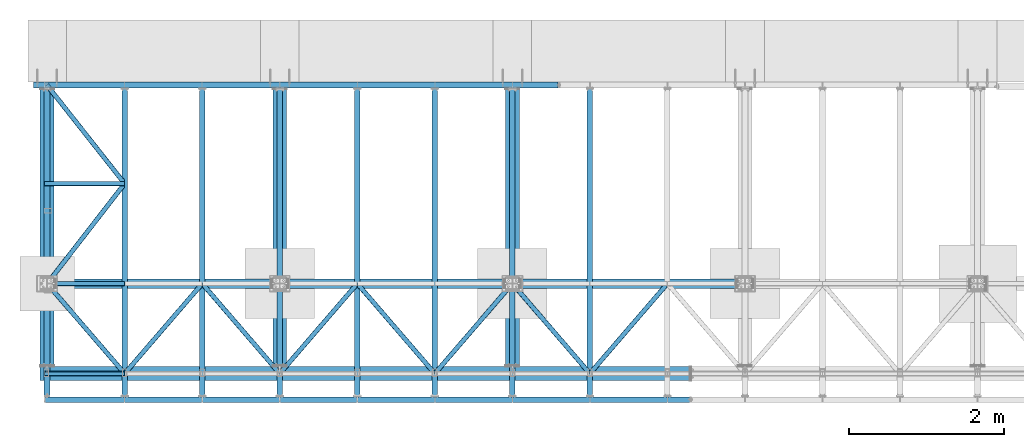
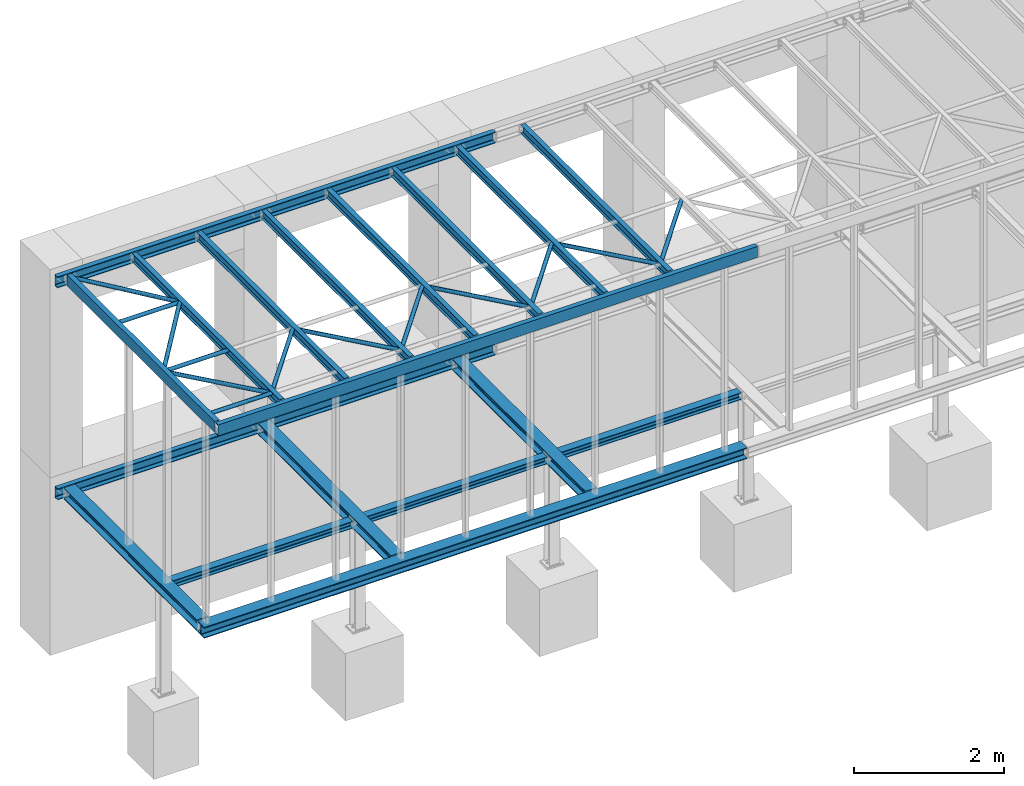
# One storey, part 3 of 22: 31 beams, 31 elements without a shape of their own.
"""IFC2X3 building model written with IfcOpenShell, lengths in millimetres."""

from ifc_helpers import new_model, si_unit, frame, origin_with_axes, origin_2d_with_axis, place, context, subcontext, project, spatial, hollow_circle, i_section, u_section, extrude, boolean, halfspace, material, type_object, element, aggregate, save


model = new_model("IFC2X3")

# Units and contexts
model_context = context("Model", 3, precision=1e-05, world=origin_with_axes())
body_context = subcontext(model_context, "Body", "Model", "MODEL_VIEW")
ifc_project = project(units=[si_unit("LENGTHUNIT", "METRE", prefix="MILLI"), si_unit("AREAUNIT", "SQUARE_METRE"), si_unit("VOLUMEUNIT", "CUBIC_METRE"), si_unit("MASSUNIT", "GRAM", prefix="KILO"), si_unit("TIMEUNIT", "SECOND"), si_unit("PLANEANGLEUNIT", "RADIAN"), si_unit("SOLIDANGLEUNIT", "STERADIAN"), si_unit("THERMODYNAMICTEMPERATUREUNIT", "DEGREE_CELSIUS"), si_unit("LUMINOUSINTENSITYUNIT", "LUMEN")], contexts=[model_context])

# Site, building, storey
site_placement = place(None, origin_with_axes())
site = spatial("IfcSite", under=ifc_project, at=site_placement, Name="Undefined", CompositionType="ELEMENT")
building_placement = place(site_placement, origin_with_axes())
building = spatial("IfcBuilding", under=site, at=building_placement, Name="Undefined", CompositionType="ELEMENT")
storey_placement = place(building_placement, origin_with_axes())
storey = spatial("IfcBuildingStorey", under=building, at=storey_placement, Name="Undefined", CompositionType="ELEMENT", Elevation=0.0)

# Assembly, beam
assembly_1_placement = place(storey_placement, origin_with_axes())
assembly_1 = element("IfcElementAssembly", 1, at=assembly_1_placement, inside=storey, Name="Steel Assembly", AssemblyPlace="NOTDEFINED", PredefinedType="RIGID_FRAME")
ifc_material = material(Name="STEEL/S235JR")
beam_type_1 = type_object("IfcBeamType", Name="HEB180", PredefinedType="NOTDEFINED")
beam_1_placement = place(assembly_1_placement, frame((6050.0, 3767.0, -250.0), z_axis=(0.0, 0.0, 1.0), x_axis=(0.0, -1.0, 0.0)))
beam_1 = element("IfcBeam", 2, at=beam_1_placement, type_object=beam_type_1, material=ifc_material, Name="NOSNÍK", ObjectType="HEB180", context=body_context, shape_type="SweptSolid", body=[
    extrude(i_section(OverallWidth=180.0, OverallDepth=180.0, WebThickness=8.5, FlangeThickness=14.0, FilletRadius=15.0, at=origin_2d_with_axis()), frame((3557.0, 0.0, 0.0), z_axis=(-1.0, 0.0, 0.0), x_axis=(0.0, -1.0, 0.0)), (0.0, 0.0, 1.0), 3557.0),
])
aggregate(assembly_1, [beam_1])

assembly_2_placement = place(storey_placement, origin_with_axes())
assembly_2 = element("IfcElementAssembly", 3, at=assembly_2_placement, inside=storey, Name="Steel Assembly", AssemblyPlace="NOTDEFINED", PredefinedType="RIGID_FRAME")
beam_2_placement = place(assembly_2_placement, frame((3050.0, 3767.0, -250.0), z_axis=(0.0, 0.0, 1.0), x_axis=(0.0, -1.0, 0.0)))
beam_2 = element("IfcBeam", 4, at=beam_2_placement, type_object=beam_type_1, material=ifc_material, Name="NOSNÍK", ObjectType="HEB180", context=body_context, shape_type="SweptSolid", body=[
    extrude(i_section(OverallWidth=180.0, OverallDepth=180.0, WebThickness=8.5, FlangeThickness=14.0, FilletRadius=15.0, at=origin_2d_with_axis()), frame((3557.0, 0.0, 0.0), z_axis=(-1.0, 0.0, 0.0), x_axis=(0.0, -1.0, 0.0)), (0.0, 0.0, 1.0), 3557.0),
])
aggregate(assembly_2, [beam_2])

assembly_3_placement = place(storey_placement, origin_with_axes())
assembly_3 = element("IfcElementAssembly", 5, at=assembly_3_placement, inside=storey, Name="Steel Assembly", AssemblyPlace="NOTDEFINED", PredefinedType="RIGID_FRAME")
beam_3_placement = place(assembly_3_placement, frame((50.0, 210.0, -250.0), z_axis=(0.0, 0.0, 1.0), x_axis=(0.0, 1.0, 0.0)))
beam_3 = element("IfcBeam", 6, at=beam_3_placement, type_object=beam_type_1, material=ifc_material, Name="NOSNÍK", ObjectType="HEB180", context=body_context, shape_type="SweptSolid", body=[
    extrude(i_section(OverallWidth=180.0, OverallDepth=180.0, WebThickness=8.5, FlangeThickness=14.0, FilletRadius=15.0, at=origin_2d_with_axis()), frame((3557.0, 0.0, 0.0), z_axis=(-1.0, 0.0, 0.0), x_axis=(0.0, -1.0, 0.0)), (0.0, 0.0, 1.0), 3557.0),
])
aggregate(assembly_3, [beam_3])

assembly_4_placement = place(storey_placement, origin_with_axes())
assembly_4 = element("IfcElementAssembly", 7, at=assembly_4_placement, inside=storey, Name="Steel Assembly", AssemblyPlace="NOTDEFINED", PredefinedType="RIGID_FRAME")
beam_4_placement = place(assembly_4_placement, frame((-40.0, 100.0, -250.0), z_axis=(0.0, 0.0, -1.0), x_axis=(1.0, 0.0, 0.0)))
beam_4 = element("IfcBeam", 8, at=beam_4_placement, type_object=beam_type_1, material=ifc_material, Name="NOSNÍK", ObjectType="HEB180", context=body_context, shape_type="SweptSolid", body=[
    extrude(i_section(OverallWidth=180.0, OverallDepth=180.0, WebThickness=8.5, FlangeThickness=14.0, FilletRadius=15.0, at=origin_2d_with_axis()), frame((8380.0, 0.0, 0.0), z_axis=(-1.0, 0.0, 0.0), x_axis=(0.0, -1.0, 0.0)), (0.0, 0.0, 1.0), 8380.0),
])
aggregate(assembly_4, [beam_4])

assembly_5_placement = place(storey_placement, origin_with_axes())
assembly_5 = element("IfcElementAssembly", 9, at=assembly_5_placement, inside=storey, Name="Steel Assembly", AssemblyPlace="NOTDEFINED", PredefinedType="RIGID_FRAME")
beam_type_2 = type_object("IfcBeamType", Name="UPE180", PredefinedType="NOTDEFINED")
beam_5_placement = place(assembly_5_placement, frame((8340.0, -237.5, 3210.0), z_axis=(0.0, 0.0, 1.0), x_axis=(-1.0, 0.0, 0.0)))
beam_5 = element("IfcBeam", 10, at=beam_5_placement, type_object=beam_type_2, material=ifc_material, Name="NOSNÍK", ObjectType="UPE180", context=body_context, shape_type="SweptSolid", body=[
    extrude(u_section(Depth=180.0, FlangeWidth=75.0, WebThickness=5.5, FlangeThickness=10.5, FilletRadius=12.0, at=origin_2d_with_axis()), frame((8330.0, 0.0, 0.0), z_axis=(-1.0, 0.0, 0.0), x_axis=(0.0, -1.0, 0.0)), (0.0, 0.0, 1.0), 8330.0),
])
aggregate(assembly_5, [beam_5])

assembly_6_placement = place(storey_placement, origin_with_axes())
assembly_6 = element("IfcElementAssembly", 11, at=assembly_6_placement, inside=storey, Name="Steel Assembly", AssemblyPlace="NOTDEFINED", PredefinedType="RIGID_FRAME")
beam_6_placement = place(assembly_6_placement, frame((6640.0, 3822.5, 3210.0), z_axis=(0.0, 0.0, -1.0), x_axis=(-1.0, 0.0, 0.0)))
beam_6 = element("IfcBeam", 12, at=beam_6_placement, type_object=beam_type_2, material=ifc_material, Name="NOSNÍK", ObjectType="UPE180", context=body_context, shape_type="SweptSolid", body=[
    extrude(u_section(Depth=180.0, FlangeWidth=75.0, WebThickness=5.5, FlangeThickness=10.5, FilletRadius=12.0, at=origin_2d_with_axis()), frame((6765.0, 0.0, 0.0), z_axis=(-1.0, 0.0, 0.0), x_axis=(0.0, -1.0, 0.0)), (0.0, 0.0, 1.0), 6765.0),
])
aggregate(assembly_6, [beam_6])

assembly_7_placement = place(storey_placement, origin_with_axes())
assembly_7 = element("IfcElementAssembly", 13, at=assembly_7_placement, inside=storey, Name="Steel Assembly", AssemblyPlace="NOTDEFINED", PredefinedType="RIGID_FRAME")
beam_7_placement = place(assembly_7_placement, frame((6640.0, 3822.5, -250.0), z_axis=(0.0, 0.0, -1.0), x_axis=(-1.0, 0.0, 0.0)))
beam_7 = element("IfcBeam", 14, at=beam_7_placement, type_object=beam_type_2, material=ifc_material, Name="NOSNÍK", ObjectType="UPE180", context=body_context, shape_type="SweptSolid", body=[
    extrude(u_section(Depth=180.0, FlangeWidth=75.0, WebThickness=5.5, FlangeThickness=10.5, FilletRadius=12.0, at=origin_2d_with_axis()), frame((6765.0, 0.0, 0.0), z_axis=(-1.0, 0.0, 0.0), x_axis=(0.0, -1.0, 0.0)), (0.0, 0.0, 1.0), 6765.0),
])
aggregate(assembly_7, [beam_7])

assembly_8_placement = place(storey_placement, origin_with_axes())
assembly_8 = element("IfcElementAssembly", 15, at=assembly_8_placement, inside=storey, Name="Steel Assembly", AssemblyPlace="NOTDEFINED", PredefinedType="RIGID_FRAME")
beam_8_placement = place(assembly_8_placement, frame((47.5, -179.999999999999, 3210.0), z_axis=(0.0, 0.0, 1.0), x_axis=(0.0, 1.0, 0.0)))
beam_8 = element("IfcBeam", 16, at=beam_8_placement, type_object=beam_type_2, material=ifc_material, Name="NOSNÍK", ObjectType="UPE180", context=body_context, shape_type="SweptSolid", body=[
    extrude(u_section(Depth=180.0, FlangeWidth=75.0, WebThickness=5.5, FlangeThickness=10.5, FilletRadius=12.0, at=origin_2d_with_axis()), frame((3945.0, 0.0, 0.0), z_axis=(-1.0, 0.0, 0.0), x_axis=(0.0, -1.0, 0.0)), (0.0, 0.0, 1.0), 3945.0),
])
aggregate(assembly_8, [beam_8])

assembly_9_placement = place(storey_placement, origin_with_axes())
assembly_9 = element("IfcElementAssembly", 17, at=assembly_9_placement, inside=storey, Name="Steel Assembly", AssemblyPlace="NOTDEFINED", PredefinedType="RIGID_FRAME")
beam_type_3 = type_object("IfcBeamType", Name="HEA120", PredefinedType="NOTDEFINED")
beam_9_placement = place(assembly_9_placement, frame((6160.0, 1260.0, -250.0), z_axis=(0.0, 0.0, -1.0), x_axis=(1.0, 0.0, 0.0)))
beam_9 = element("IfcBeam", 18, at=beam_9_placement, type_object=beam_type_3, material=ifc_material, Name="NOSNÍK", ObjectType="HEA120", context=body_context, shape_type="SweptSolid", body=[
    extrude(i_section(OverallWidth=120.0, OverallDepth=114.0, WebThickness=5.0, FlangeThickness=8.0, FilletRadius=12.0, at=origin_2d_with_axis()), frame((2780.0, 0.0, 0.0), z_axis=(-1.0, 0.0, 0.0), x_axis=(0.0, -1.0, 0.0)), (0.0, 0.0, 1.0), 2780.0),
])
aggregate(assembly_9, [beam_9])

assembly_10_placement = place(storey_placement, origin_with_axes())
assembly_10 = element("IfcElementAssembly", 19, at=assembly_10_placement, inside=storey, Name="Steel Assembly", AssemblyPlace="NOTDEFINED", PredefinedType="RIGID_FRAME")
beam_10_placement = place(assembly_10_placement, frame((3160.0, 1260.0, -250.0), z_axis=(0.0, 0.0, -1.0), x_axis=(1.0, 0.0, 0.0)))
beam_10 = element("IfcBeam", 20, at=beam_10_placement, type_object=beam_type_3, material=ifc_material, Name="NOSNÍK", ObjectType="HEA120", context=body_context, shape_type="SweptSolid", body=[
    extrude(i_section(OverallWidth=120.0, OverallDepth=114.0, WebThickness=5.0, FlangeThickness=8.0, FilletRadius=12.0, at=origin_2d_with_axis()), frame((2780.0, 0.0, 0.0), z_axis=(-1.0, 0.0, 0.0), x_axis=(0.0, -1.0, 0.0)), (0.0, 0.0, 1.0), 2780.0),
])
aggregate(assembly_10, [beam_10])

assembly_11_placement = place(storey_placement, origin_with_axes())
assembly_11 = element("IfcElementAssembly", 21, at=assembly_11_placement, inside=storey, Name="Steel Assembly", AssemblyPlace="NOTDEFINED", PredefinedType="RIGID_FRAME")
beam_11_placement = place(assembly_11_placement, frame((160.0, 1260.0, -250.0), z_axis=(0.0, 0.0, -1.0), x_axis=(1.0, 0.0, 0.0)))
beam_11 = element("IfcBeam", 22, at=beam_11_placement, type_object=beam_type_3, material=ifc_material, Name="NOSNÍK", ObjectType="HEA120", context=body_context, shape_type="SweptSolid", body=[
    extrude(i_section(OverallWidth=120.0, OverallDepth=114.0, WebThickness=5.0, FlangeThickness=8.0, FilletRadius=12.0, at=origin_2d_with_axis()), frame((2780.0, 0.0, 0.0), z_axis=(-1.0, 0.0, 0.0), x_axis=(0.0, -1.0, 0.0)), (0.0, 0.0, 1.0), 2780.0),
])
aggregate(assembly_11, [beam_11])

assembly_12_placement = place(storey_placement, origin_with_axes())
assembly_12 = element("IfcElementAssembly", 23, at=assembly_12_placement, inside=storey, Name="Steel Assembly", AssemblyPlace="NOTDEFINED", PredefinedType="RIGID_FRAME")
beam_type_4 = type_object("IfcBeamType", Name="CHS60.3*5", PredefinedType="NOTDEFINED")
beam_12_placement = place(assembly_12_placement, frame((15.5, 2550.0, 3230.0), z_axis=(0.0, 0.0, -1.0), x_axis=(1.0, 0.0, 0.0)))
beam_12 = element("IfcBeam", 24, at=beam_12_placement, type_object=beam_type_4, material=ifc_material, Name="NOSNÍK", ObjectType="CHS60.3*5", context=body_context, shape_type="SweptSolid", body=[
    extrude(hollow_circle(Radius=30.15, WallThickness=5.0, at=origin_2d_with_axis()), frame((1034.5, 0.0, 0.0), z_axis=(-1.0, 0.0, 0.0), x_axis=(0.0, -1.0, 0.0)), (0.0, 0.0, 1.0), 1034.5),
])
aggregate(assembly_12, [beam_12])

assembly_13_placement = place(storey_placement, origin_with_axes())
assembly_13 = element("IfcElementAssembly", 25, at=assembly_13_placement, inside=storey, Name="Steel Assembly", AssemblyPlace="NOTDEFINED", PredefinedType="RIGID_FRAME")
beam_13_placement = place(assembly_13_placement, frame((7050.0, 100.0, 3230.0), z_axis=(0.0, 0.0, -1.0), x_axis=(0.652939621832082, 0.757409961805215, 0.0)))
beam_13 = element("IfcBeam", 26, at=beam_13_placement, type_object=beam_type_4, material=ifc_material, Name="NOSNÍK", ObjectType="CHS60.3*5", context=body_context, shape_type="CSG", body=[
    boolean("DIFFERENCE", boolean("DIFFERENCE", boolean("DIFFERENCE", boolean("DIFFERENCE", extrude(hollow_circle(Radius=30.15, WallThickness=5.0, at=origin_2d_with_axis()), frame((1531.53517752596, -1.81898940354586e-12, 0.0), z_axis=(-1.0, 0.0, 0.0), x_axis=(0.0, -1.0, 0.0)), (0.0, 0.0, 1.0), 1531.5), extrude(hollow_circle(Radius=30.15, WallThickness=5.0, at=origin_2d_with_axis()), frame((1530.00076941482, -1.77991293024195, 0.0), z_axis=(-0.652939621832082, -0.757409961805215, 0.0), x_axis=(0.757409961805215, -0.652939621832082, 0.0)), (0.0, 0.0, 1.0), 995.3)), extrude(hollow_circle(Radius=30.15, WallThickness=5.0, at=origin_2d_with_axis()), frame((651.405213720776, 755.630048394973, 0.0), z_axis=(-0.652939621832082, -0.757409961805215, 0.0), x_axis=(0.757409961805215, -0.652939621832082, 0.0)), (0.0, 0.0, 1.0), 995.3)), halfspace(frame((1562.9100704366, -30.1499999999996, -30.1500000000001), z_axis=(0.652939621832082, 0.757409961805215, 0.0), x_axis=(0.0, 0.0, 1.0)), False)), halfspace(frame((-31.3748924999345, 30.1499999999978, -30.1500000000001), z_axis=(-0.652939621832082, -0.757409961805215, 0.0), x_axis=(0.0, 0.0, 1.0)), False)),
])
aggregate(assembly_13, [beam_13])

assembly_14_placement = place(storey_placement, origin_with_axes())
assembly_14 = element("IfcElementAssembly", 27, at=assembly_14_placement, inside=storey, Name="Steel Assembly", AssemblyPlace="NOTDEFINED", PredefinedType="RIGID_FRAME")
beam_14_placement = place(assembly_14_placement, frame((6049.99999972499, 1260.00000021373, 3230.0), z_axis=(0.0, 0.0, -1.0), x_axis=(0.652939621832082, -0.757409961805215, 0.0)))
beam_14 = element("IfcBeam", 28, at=beam_14_placement, type_object=beam_type_4, material=ifc_material, Name="NOSNÍK", ObjectType="CHS60.3*5", context=body_context, shape_type="CSG", body=[
    boolean("DIFFERENCE", boolean("DIFFERENCE", boolean("DIFFERENCE", boolean("DIFFERENCE", extrude(hollow_circle(Radius=30.15, WallThickness=5.0, at=origin_2d_with_axis()), frame((1531.53517752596, -1.81898940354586e-12, 0.0), z_axis=(-1.0, 0.0, 0.0), x_axis=(0.0, -1.0, 0.0)), (0.0, 0.0, 1.0), 1531.5), extrude(hollow_circle(Radius=30.15, WallThickness=5.0, at=origin_2d_with_axis()), frame((651.405214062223, -755.630048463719, 0.0), z_axis=(-0.652939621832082, 0.757409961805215, 0.0), x_axis=(-0.757409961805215, -0.652939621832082, 0.0)), (0.0, 0.0, 1.0), 995.3)), extrude(hollow_circle(Radius=30.15, WallThickness=5.0, at=origin_2d_with_axis()), frame((1530.00076975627, 1.77991286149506, 9.09494701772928e-13), z_axis=(-0.652939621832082, 0.757409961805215, 0.0), x_axis=(-0.757409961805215, -0.652939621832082, 0.0)), (0.0, 0.0, 1.0), 995.3)), halfspace(frame((38.5731081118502, 30.1499999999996, -30.1499999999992), z_axis=(-0.652939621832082, 0.757409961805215, 0.0), x_axis=(0.0, 0.0, 1.0)), False)), halfspace(frame((1562.91007051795, 30.1499999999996, 30.150000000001), z_axis=(0.652939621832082, -0.757409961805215, 0.0), x_axis=(0.0, 0.0, -1.0)), False)),
])
aggregate(assembly_14, [beam_14])

assembly_15_placement = place(storey_placement, origin_with_axes())
assembly_15 = element("IfcElementAssembly", 29, at=assembly_15_placement, inside=storey, Name="Steel Assembly", AssemblyPlace="NOTDEFINED", PredefinedType="RIGID_FRAME")
beam_15_placement = place(assembly_15_placement, frame((5050.0, 100.0, 3230.0), z_axis=(0.0, 0.0, -1.0), x_axis=(0.652939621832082, 0.757409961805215, 0.0)))
beam_15 = element("IfcBeam", 30, at=beam_15_placement, type_object=beam_type_4, material=ifc_material, Name="NOSNÍK", ObjectType="CHS60.3*5", context=body_context, shape_type="CSG", body=[
    boolean("DIFFERENCE", boolean("DIFFERENCE", boolean("DIFFERENCE", boolean("DIFFERENCE", extrude(hollow_circle(Radius=30.15, WallThickness=5.0, at=origin_2d_with_axis()), frame((1531.53517752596, -1.81898940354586e-12, 0.0), z_axis=(-1.0, 0.0, 0.0), x_axis=(0.0, -1.0, 0.0)), (0.0, 0.0, 1.0), 1531.5), extrude(hollow_circle(Radius=30.15, WallThickness=5.0, at=origin_2d_with_axis()), frame((1530.00076941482, -1.77991293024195, 0.0), z_axis=(-0.652939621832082, -0.757409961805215, 0.0), x_axis=(0.757409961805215, -0.652939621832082, 0.0)), (0.0, 0.0, 1.0), 995.3)), extrude(hollow_circle(Radius=30.15, WallThickness=5.0, at=origin_2d_with_axis()), frame((651.405213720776, 755.630048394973, 0.0), z_axis=(-0.652939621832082, -0.757409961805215, 0.0), x_axis=(0.757409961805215, -0.652939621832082, 0.0)), (0.0, 0.0, 1.0), 995.3)), halfspace(frame((1562.9100704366, -30.1499999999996, -30.1500000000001), z_axis=(0.652939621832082, 0.757409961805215, 0.0), x_axis=(0.0, 0.0, 1.0)), False)), halfspace(frame((-31.3748924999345, 30.1499999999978, -30.1500000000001), z_axis=(-0.652939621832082, -0.757409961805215, 0.0), x_axis=(0.0, 0.0, 1.0)), False)),
])
aggregate(assembly_15, [beam_15])

assembly_16_placement = place(storey_placement, origin_with_axes())
assembly_16 = element("IfcElementAssembly", 31, at=assembly_16_placement, inside=storey, Name="Steel Assembly", AssemblyPlace="NOTDEFINED", PredefinedType="RIGID_FRAME")
beam_16_placement = place(assembly_16_placement, frame((4049.99999972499, 1260.00000021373, 3230.0), z_axis=(0.0, 0.0, -1.0), x_axis=(0.652939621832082, -0.757409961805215, 0.0)))
beam_16 = element("IfcBeam", 32, at=beam_16_placement, type_object=beam_type_4, material=ifc_material, Name="NOSNÍK", ObjectType="CHS60.3*5", context=body_context, shape_type="CSG", body=[
    boolean("DIFFERENCE", boolean("DIFFERENCE", boolean("DIFFERENCE", boolean("DIFFERENCE", extrude(hollow_circle(Radius=30.15, WallThickness=5.0, at=origin_2d_with_axis()), frame((1531.53517752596, -1.81898940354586e-12, 0.0), z_axis=(-1.0, 0.0, 0.0), x_axis=(0.0, -1.0, 0.0)), (0.0, 0.0, 1.0), 1531.5), extrude(hollow_circle(Radius=30.15, WallThickness=5.0, at=origin_2d_with_axis()), frame((651.405214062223, -755.630048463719, 0.0), z_axis=(-0.652939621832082, 0.757409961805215, 0.0), x_axis=(-0.757409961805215, -0.652939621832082, 0.0)), (0.0, 0.0, 1.0), 995.3)), extrude(hollow_circle(Radius=30.15, WallThickness=5.0, at=origin_2d_with_axis()), frame((1530.00076975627, 1.77991286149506, 9.09494701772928e-13), z_axis=(-0.652939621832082, 0.757409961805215, 0.0), x_axis=(-0.757409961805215, -0.652939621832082, 0.0)), (0.0, 0.0, 1.0), 995.3)), halfspace(frame((38.5731081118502, 30.1499999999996, -30.1499999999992), z_axis=(-0.652939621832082, 0.757409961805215, 0.0), x_axis=(0.0, 0.0, 1.0)), False)), halfspace(frame((1562.91007051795, 30.1499999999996, 30.150000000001), z_axis=(0.652939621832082, -0.757409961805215, 0.0), x_axis=(0.0, 0.0, -1.0)), False)),
])
aggregate(assembly_16, [beam_16])

assembly_17_placement = place(storey_placement, origin_with_axes())
assembly_17 = element("IfcElementAssembly", 33, at=assembly_17_placement, inside=storey, Name="Steel Assembly", AssemblyPlace="NOTDEFINED", PredefinedType="RIGID_FRAME")
beam_17_placement = place(assembly_17_placement, frame((3050.0, 100.0, 3230.0), z_axis=(0.0, 0.0, -1.0), x_axis=(0.652939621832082, 0.757409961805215, 0.0)))
beam_17 = element("IfcBeam", 34, at=beam_17_placement, type_object=beam_type_4, material=ifc_material, Name="NOSNÍK", ObjectType="CHS60.3*5", context=body_context, shape_type="CSG", body=[
    boolean("DIFFERENCE", boolean("DIFFERENCE", boolean("DIFFERENCE", boolean("DIFFERENCE", extrude(hollow_circle(Radius=30.15, WallThickness=5.0, at=origin_2d_with_axis()), frame((1531.53517752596, -1.81898940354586e-12, 0.0), z_axis=(-1.0, 0.0, 0.0), x_axis=(0.0, -1.0, 0.0)), (0.0, 0.0, 1.0), 1531.5), extrude(hollow_circle(Radius=30.15, WallThickness=5.0, at=origin_2d_with_axis()), frame((1530.00076941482, -1.77991293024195, 0.0), z_axis=(-0.652939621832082, -0.757409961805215, 0.0), x_axis=(0.757409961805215, -0.652939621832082, 0.0)), (0.0, 0.0, 1.0), 995.3)), extrude(hollow_circle(Radius=30.15, WallThickness=5.0, at=origin_2d_with_axis()), frame((651.405213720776, 755.630048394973, 0.0), z_axis=(-0.652939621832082, -0.757409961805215, 0.0), x_axis=(0.757409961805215, -0.652939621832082, 0.0)), (0.0, 0.0, 1.0), 995.3)), halfspace(frame((1562.9100704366, -30.1499999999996, -30.1500000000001), z_axis=(0.652939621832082, 0.757409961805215, 0.0), x_axis=(0.0, 0.0, 1.0)), False)), halfspace(frame((-31.3748924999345, 30.1499999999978, -30.1500000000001), z_axis=(-0.652939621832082, -0.757409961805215, 0.0), x_axis=(0.0, 0.0, 1.0)), False)),
])
aggregate(assembly_17, [beam_17])

assembly_18_placement = place(storey_placement, origin_with_axes())
assembly_18 = element("IfcElementAssembly", 35, at=assembly_18_placement, inside=storey, Name="Steel Assembly", AssemblyPlace="NOTDEFINED", PredefinedType="RIGID_FRAME")
beam_18_placement = place(assembly_18_placement, frame((2049.99999972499, 1260.00000021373, 3230.0), z_axis=(0.0, 0.0, -1.0), x_axis=(0.652939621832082, -0.757409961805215, 0.0)))
beam_18 = element("IfcBeam", 36, at=beam_18_placement, type_object=beam_type_4, material=ifc_material, Name="NOSNÍK", ObjectType="CHS60.3*5", context=body_context, shape_type="CSG", body=[
    boolean("DIFFERENCE", boolean("DIFFERENCE", boolean("DIFFERENCE", boolean("DIFFERENCE", extrude(hollow_circle(Radius=30.15, WallThickness=5.0, at=origin_2d_with_axis()), frame((1531.53517752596, -1.81898940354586e-12, 0.0), z_axis=(-1.0, 0.0, 0.0), x_axis=(0.0, -1.0, 0.0)), (0.0, 0.0, 1.0), 1531.5), extrude(hollow_circle(Radius=30.15, WallThickness=5.0, at=origin_2d_with_axis()), frame((651.405214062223, -755.630048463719, 0.0), z_axis=(-0.652939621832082, 0.757409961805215, 0.0), x_axis=(-0.757409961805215, -0.652939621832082, 0.0)), (0.0, 0.0, 1.0), 995.3)), extrude(hollow_circle(Radius=30.15, WallThickness=5.0, at=origin_2d_with_axis()), frame((1530.00076975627, 1.77991286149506, 9.09494701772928e-13), z_axis=(-0.652939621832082, 0.757409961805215, 0.0), x_axis=(-0.757409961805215, -0.652939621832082, 0.0)), (0.0, 0.0, 1.0), 995.3)), halfspace(frame((38.5731081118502, 30.1499999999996, -30.1499999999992), z_axis=(-0.652939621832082, 0.757409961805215, 0.0), x_axis=(0.0, 0.0, 1.0)), False)), halfspace(frame((1562.91007051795, 30.1499999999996, 30.150000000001), z_axis=(0.652939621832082, -0.757409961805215, 0.0), x_axis=(0.0, 0.0, -1.0)), False)),
])
aggregate(assembly_18, [beam_18])

assembly_19_placement = place(storey_placement, origin_with_axes())
assembly_19 = element("IfcElementAssembly", 37, at=assembly_19_placement, inside=storey, Name="Steel Assembly", AssemblyPlace="NOTDEFINED", PredefinedType="RIGID_FRAME")
beam_19_placement = place(assembly_19_placement, frame((1050.0, 100.0, 3230.0), z_axis=(0.0, 0.0, -1.0), x_axis=(0.652939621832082, 0.757409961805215, 0.0)))
beam_19 = element("IfcBeam", 38, at=beam_19_placement, type_object=beam_type_4, material=ifc_material, Name="NOSNÍK", ObjectType="CHS60.3*5", context=body_context, shape_type="CSG", body=[
    boolean("DIFFERENCE", boolean("DIFFERENCE", boolean("DIFFERENCE", boolean("DIFFERENCE", extrude(hollow_circle(Radius=30.15, WallThickness=5.0, at=origin_2d_with_axis()), frame((1531.53517752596, -1.81898940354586e-12, 0.0), z_axis=(-1.0, 0.0, 0.0), x_axis=(0.0, -1.0, 0.0)), (0.0, 0.0, 1.0), 1531.5), extrude(hollow_circle(Radius=30.15, WallThickness=5.0, at=origin_2d_with_axis()), frame((1530.00076941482, -1.77991293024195, 0.0), z_axis=(-0.652939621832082, -0.757409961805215, 0.0), x_axis=(0.757409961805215, -0.652939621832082, 0.0)), (0.0, 0.0, 1.0), 995.3)), extrude(hollow_circle(Radius=30.15, WallThickness=5.0, at=origin_2d_with_axis()), frame((652.939621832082, 757.409961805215, 9.09494701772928e-13), z_axis=(-0.652939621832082, -0.757409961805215, 0.0), x_axis=(0.757409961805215, -0.652939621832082, 0.0)), (0.0, 0.0, 1.0), 997.7)), halfspace(frame((1562.9100704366, -30.1499999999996, -30.1500000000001), z_axis=(0.652939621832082, 0.757409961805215, 0.0), x_axis=(0.0, 0.0, 1.0)), False)), halfspace(frame((-31.3748924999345, 30.1499999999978, -30.1500000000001), z_axis=(-0.652939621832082, -0.757409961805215, 0.0), x_axis=(0.0, 0.0, 1.0)), False)),
])
aggregate(assembly_19, [beam_19])

assembly_20_placement = place(storey_placement, origin_with_axes())
assembly_20 = element("IfcElementAssembly", 39, at=assembly_20_placement, inside=storey, Name="Steel Assembly", AssemblyPlace="NOTDEFINED", PredefinedType="RIGID_FRAME")
beam_20_placement = place(assembly_20_placement, frame((53.4274012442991, 1256.00000021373, 3230.0), z_axis=(0.0, 0.0, -1.0), x_axis=(0.652939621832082, -0.757409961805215, 0.0)))
beam_20 = element("IfcBeam", 40, at=beam_20_placement, type_object=beam_type_4, material=ifc_material, Name="NOSNÍK", ObjectType="CHS60.3*5", context=body_context, shape_type="CSG", body=[
    boolean("DIFFERENCE", boolean("DIFFERENCE", boolean("DIFFERENCE", extrude(hollow_circle(Radius=30.15, WallThickness=5.0, at=origin_2d_with_axis()), frame((1531.53517752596, -1.81898940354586e-12, 0.0), z_axis=(-1.0, 0.0, 0.0), x_axis=(0.0, -1.0, 0.0)), (0.0, 0.0, 1.0), 1531.5), extrude(hollow_circle(Radius=30.15, WallThickness=5.0, at=origin_2d_with_axis()), frame((1524.73324365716, 1.76410242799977, 4.54747350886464e-13), z_axis=(-0.652939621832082, 0.757409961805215, 0.0), x_axis=(-0.757409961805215, -0.652939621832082, 0.0)), (0.0, 0.0, 1.0), 1032.2)), extrude(hollow_circle(Radius=30.15, WallThickness=5.0, at=origin_2d_with_axis()), frame((647.67209607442, -757.425772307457, 4.54747350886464e-13), z_axis=(-0.652939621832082, 0.757409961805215, 0.0), x_axis=(-0.757409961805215, -0.652939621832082, 0.0)), (0.0, 0.0, 1.0), 1034.5)), halfspace(frame((1557.66088500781, 30.1500000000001, 30.1500000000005), z_axis=(0.652939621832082, -0.757409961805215, 0.0), x_axis=(0.0, 0.0, -1.0)), False)),
])
aggregate(assembly_20, [beam_20])

assembly_21_placement = place(storey_placement, origin_with_axes())
assembly_21 = element("IfcElementAssembly", 41, at=assembly_21_placement, inside=storey, Name="Steel Assembly", AssemblyPlace="NOTDEFINED", PredefinedType="RIGID_FRAME")
beam_21_placement = place(assembly_21_placement, frame((15.5, 100.0, 3230.0), z_axis=(0.0, 0.0, -1.0), x_axis=(1.0, 0.0, 0.0)))
beam_21 = element("IfcBeam", 42, at=beam_21_placement, type_object=beam_type_4, material=ifc_material, Name="NOSNÍK", ObjectType="CHS60.3*5", context=body_context, shape_type="SweptSolid", body=[
    extrude(hollow_circle(Radius=30.15, WallThickness=5.0, at=origin_2d_with_axis()), frame((1032.15, 0.0, 0.0), z_axis=(-1.0, 0.0, 0.0), x_axis=(0.0, -1.0, 0.0)), (0.0, 0.0, 1.0), 1032.2),
])
aggregate(assembly_21, [beam_21])

assembly_22_placement = place(storey_placement, origin_with_axes())
assembly_22 = element("IfcElementAssembly", 43, at=assembly_22_placement, inside=storey, Name="Steel Assembly", AssemblyPlace="NOTDEFINED", PredefinedType="RIGID_FRAME")
beam_22_placement = place(assembly_22_placement, frame((1050.00000007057, 2550.00000005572, 3230.00000000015), z_axis=(0.0, 0.0, 1.0), x_axis=(-0.612667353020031, -0.79034088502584, 0.0)))
beam_22 = element("IfcBeam", 44, at=beam_22_placement, type_object=beam_type_4, material=ifc_material, Name="NOSNÍK", ObjectType="CHS60.3*5", context=body_context, shape_type="CSG", body=[
    boolean("DIFFERENCE", boolean("DIFFERENCE", boolean("DIFFERENCE", extrude(hollow_circle(Radius=30.15, WallThickness=5.0, at=origin_2d_with_axis()), frame((1632.20709478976, -2.71817084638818e-13, 0.0), z_axis=(-1.0, 0.0, 0.0), x_axis=(0.0, -1.0, 0.0)), (0.0, 0.0, 1.0), 1632.2), extrude(hollow_circle(Radius=30.15, WallThickness=5.0, at=origin_2d_with_axis()), frame((1019.5397417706, 790.340885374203, -1.50976120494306e-10), z_axis=(0.612667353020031, -0.79034088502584, 0.0), x_axis=(-0.79034088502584, -0.612667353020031, 0.0)), (0.0, 0.0, 1.0), 1034.5)), extrude(hollow_circle(Radius=30.15, WallThickness=5.0, at=origin_2d_with_axis()), frame((0.0, 0.0, 0.0), z_axis=(0.612667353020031, -0.79034088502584, 0.0), x_axis=(-0.79034088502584, -0.612667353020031, 0.0)), (0.0, 0.0, 1.0), 1034.5)), halfspace(frame((42.7291866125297, 30.15, -30.1500000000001), z_axis=(-0.612667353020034, 0.790340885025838, 0.0), x_axis=(0.0, 0.0, 1.0)), False)),
])
aggregate(assembly_22, [beam_22])

assembly_23_placement = place(storey_placement, origin_with_axes())
assembly_23 = element("IfcElementAssembly", 45, at=assembly_23_placement, inside=storey, Name="Steel Assembly", AssemblyPlace="NOTDEFINED", PredefinedType="RIGID_FRAME")
beam_23_placement = place(assembly_23_placement, frame((47.5000000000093, 3820.0, 3230.0), z_axis=(0.0, 0.0, -1.0), x_axis=(0.619594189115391, -0.784922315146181, 0.0)))
beam_23 = element("IfcBeam", 46, at=beam_23_placement, type_object=beam_type_4, material=ifc_material, Name="NOSNÍK", ObjectType="CHS60.3*5", context=body_context, shape_type="CSG", body=[
    boolean("DIFFERENCE", boolean("DIFFERENCE", extrude(hollow_circle(Radius=30.15, WallThickness=5.0, at=origin_2d_with_axis()), frame((1617.99451482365, 0.0, 0.0), z_axis=(-1.0, 0.0, 0.0), x_axis=(0.0, -1.0, 0.0)), (0.0, 0.0, 1.0), 1618.0), extrude(hollow_circle(Radius=30.15, WallThickness=5.0, at=origin_2d_with_axis()), frame((1617.99451482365, 0.0, 0.0), z_axis=(-0.619594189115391, 0.784922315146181, 0.0), x_axis=(-0.784922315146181, -0.619594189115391, 0.0)), (0.0, 0.0, 1.0), 1034.5)), halfspace(frame((1652.39672334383, 30.1499999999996, 30.1500000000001), z_axis=(0.619594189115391, -0.784922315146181, 0.0), x_axis=(0.0, 0.0, -1.0)), False)),
])
aggregate(assembly_23, [beam_23])

assembly_24_placement = place(storey_placement, origin_with_axes())
assembly_24 = element("IfcElementAssembly", 47, at=assembly_24_placement, inside=storey, Name="Steel Assembly", AssemblyPlace="NOTDEFINED", PredefinedType="RIGID_FRAME")
beam_24_placement = place(assembly_24_placement, frame((15.5, 1260.0, 3230.0), z_axis=(0.0, 0.0, -1.0), x_axis=(1.0, 0.0, 0.0)))
beam_24 = element("IfcBeam", 48, at=beam_24_placement, type_object=beam_type_4, material=ifc_material, Name="NOSNÍK", ObjectType="CHS60.3*5", context=body_context, shape_type="SweptSolid", body=[
    extrude(hollow_circle(Radius=30.15, WallThickness=5.0, at=origin_2d_with_axis()), frame((1032.15, 0.0, 0.0), z_axis=(-1.0, 0.0, 0.0), x_axis=(0.0, -1.0, 0.0)), (0.0, 0.0, 1.0), 1032.2),
])
aggregate(assembly_24, [beam_24])

assembly_25_placement = place(storey_placement, origin_with_axes())
assembly_25 = element("IfcElementAssembly", 49, at=assembly_25_placement, inside=storey, Name="Steel Assembly", AssemblyPlace="NOTDEFINED", PredefinedType="RIGID_FRAME")
beam_type_5 = type_object("IfcBeamType", Name="IPE140", PredefinedType="NOTDEFINED")
beam_25_placement = place(assembly_25_placement, frame((1050.0, -180.0, 3230.0), z_axis=(0.0, 0.0, 1.0), x_axis=(0.0, 1.0, 0.0)))
beam_25 = element("IfcBeam", 50, at=beam_25_placement, type_object=beam_type_5, material=ifc_material, Name="NOSNÍK", ObjectType="IPE140", context=body_context, shape_type="SweptSolid", body=[
    extrude(i_section(OverallWidth=73.0, OverallDepth=140.0, WebThickness=4.699999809, FlangeThickness=6.900000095, FilletRadius=7.0, at=origin_2d_with_axis()), frame((3947.0, 0.0, 0.0), z_axis=(-1.0, 0.0, 0.0), x_axis=(0.0, -1.0, 0.0)), (0.0, 0.0, 1.0), 3947.0),
])
aggregate(assembly_25, [beam_25])

assembly_26_placement = place(storey_placement, origin_with_axes())
assembly_26 = element("IfcElementAssembly", 51, at=assembly_26_placement, inside=storey, Name="Steel Assembly", AssemblyPlace="NOTDEFINED", PredefinedType="RIGID_FRAME")
beam_26_placement = place(assembly_26_placement, frame((2050.0, -180.0, 3230.0), z_axis=(0.0, 0.0, 1.0), x_axis=(0.0, 1.0, 0.0)))
beam_26 = element("IfcBeam", 52, at=beam_26_placement, type_object=beam_type_5, material=ifc_material, Name="NOSNÍK", ObjectType="IPE140", context=body_context, shape_type="SweptSolid", body=[
    extrude(i_section(OverallWidth=73.0, OverallDepth=140.0, WebThickness=4.699999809, FlangeThickness=6.900000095, FilletRadius=7.0, at=origin_2d_with_axis()), frame((3947.0, 0.0, 0.0), z_axis=(-1.0, 0.0, 0.0), x_axis=(0.0, -1.0, 0.0)), (0.0, 0.0, 1.0), 3947.0),
])
aggregate(assembly_26, [beam_26])

assembly_27_placement = place(storey_placement, origin_with_axes())
assembly_27 = element("IfcElementAssembly", 53, at=assembly_27_placement, inside=storey, Name="Steel Assembly", AssemblyPlace="NOTDEFINED", PredefinedType="RIGID_FRAME")
beam_27_placement = place(assembly_27_placement, frame((3050.0, -180.0, 3230.0), z_axis=(0.0, 0.0, 1.0), x_axis=(0.0, 1.0, 0.0)))
beam_27 = element("IfcBeam", 54, at=beam_27_placement, type_object=beam_type_5, material=ifc_material, Name="NOSNÍK", ObjectType="IPE140", context=body_context, shape_type="SweptSolid", body=[
    extrude(i_section(OverallWidth=73.0, OverallDepth=140.0, WebThickness=4.699999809, FlangeThickness=6.900000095, FilletRadius=7.0, at=origin_2d_with_axis()), frame((3947.0, 0.0, 0.0), z_axis=(-1.0, 0.0, 0.0), x_axis=(0.0, -1.0, 0.0)), (0.0, 0.0, 1.0), 3947.0),
])
aggregate(assembly_27, [beam_27])

assembly_28_placement = place(storey_placement, origin_with_axes())
assembly_28 = element("IfcElementAssembly", 55, at=assembly_28_placement, inside=storey, Name="Steel Assembly", AssemblyPlace="NOTDEFINED", PredefinedType="RIGID_FRAME")
beam_28_placement = place(assembly_28_placement, frame((4050.0, -180.0, 3230.0), z_axis=(0.0, 0.0, 1.0), x_axis=(0.0, 1.0, 0.0)))
beam_28 = element("IfcBeam", 56, at=beam_28_placement, type_object=beam_type_5, material=ifc_material, Name="NOSNÍK", ObjectType="IPE140", context=body_context, shape_type="SweptSolid", body=[
    extrude(i_section(OverallWidth=73.0, OverallDepth=140.0, WebThickness=4.699999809, FlangeThickness=6.900000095, FilletRadius=7.0, at=origin_2d_with_axis()), frame((3947.0, 0.0, 0.0), z_axis=(-1.0, 0.0, 0.0), x_axis=(0.0, -1.0, 0.0)), (0.0, 0.0, 1.0), 3947.0),
])
aggregate(assembly_28, [beam_28])

assembly_29_placement = place(storey_placement, origin_with_axes())
assembly_29 = element("IfcElementAssembly", 57, at=assembly_29_placement, inside=storey, Name="Steel Assembly", AssemblyPlace="NOTDEFINED", PredefinedType="RIGID_FRAME")
beam_29_placement = place(assembly_29_placement, frame((5050.0, -180.0, 3230.0), z_axis=(0.0, 0.0, 1.0), x_axis=(0.0, 1.0, 0.0)))
beam_29 = element("IfcBeam", 58, at=beam_29_placement, type_object=beam_type_5, material=ifc_material, Name="NOSNÍK", ObjectType="IPE140", context=body_context, shape_type="SweptSolid", body=[
    extrude(i_section(OverallWidth=73.0, OverallDepth=140.0, WebThickness=4.699999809, FlangeThickness=6.900000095, FilletRadius=7.0, at=origin_2d_with_axis()), frame((3947.0, 0.0, 0.0), z_axis=(-1.0, 0.0, 0.0), x_axis=(0.0, -1.0, 0.0)), (0.0, 0.0, 1.0), 3947.0),
])
aggregate(assembly_29, [beam_29])

assembly_30_placement = place(storey_placement, origin_with_axes())
assembly_30 = element("IfcElementAssembly", 59, at=assembly_30_placement, inside=storey, Name="Steel Assembly", AssemblyPlace="NOTDEFINED", PredefinedType="RIGID_FRAME")
beam_30_placement = place(assembly_30_placement, frame((6050.0, -180.0, 3230.0), z_axis=(0.0, 0.0, 1.0), x_axis=(0.0, 1.0, 0.0)))
beam_30 = element("IfcBeam", 60, at=beam_30_placement, type_object=beam_type_5, material=ifc_material, Name="NOSNÍK", ObjectType="IPE140", context=body_context, shape_type="SweptSolid", body=[
    extrude(i_section(OverallWidth=73.0, OverallDepth=140.0, WebThickness=4.699999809, FlangeThickness=6.900000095, FilletRadius=7.0, at=origin_2d_with_axis()), frame((3947.0, 0.0, 0.0), z_axis=(-1.0, 0.0, 0.0), x_axis=(0.0, -1.0, 0.0)), (0.0, 0.0, 1.0), 3947.0),
])
aggregate(assembly_30, [beam_30])

assembly_31_placement = place(storey_placement, origin_with_axes())
assembly_31 = element("IfcElementAssembly", 61, at=assembly_31_placement, inside=storey, Name="Steel Assembly", AssemblyPlace="NOTDEFINED", PredefinedType="RIGID_FRAME")
beam_31_placement = place(assembly_31_placement, frame((7050.0, -180.0, 3230.0), z_axis=(0.0, 0.0, 1.0), x_axis=(0.0, 1.0, 0.0)))
beam_31 = element("IfcBeam", 62, at=beam_31_placement, type_object=beam_type_5, material=ifc_material, Name="NOSNÍK", ObjectType="IPE140", context=body_context, shape_type="SweptSolid", body=[
    extrude(i_section(OverallWidth=73.0, OverallDepth=140.0, WebThickness=4.699999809, FlangeThickness=6.900000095, FilletRadius=7.0, at=origin_2d_with_axis()), frame((3947.0, 0.0, 0.0), z_axis=(-1.0, 0.0, 0.0), x_axis=(0.0, -1.0, 0.0)), (0.0, 0.0, 1.0), 3947.0),
])
aggregate(assembly_31, [beam_31])

save(model, "model.ifc")
